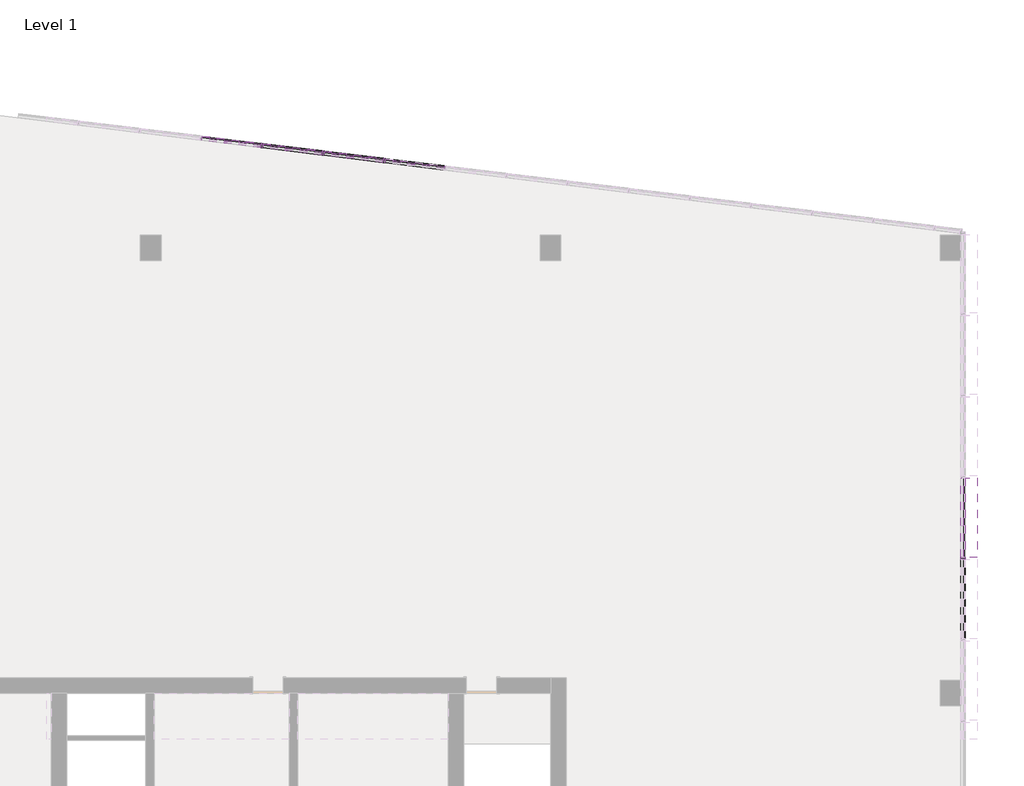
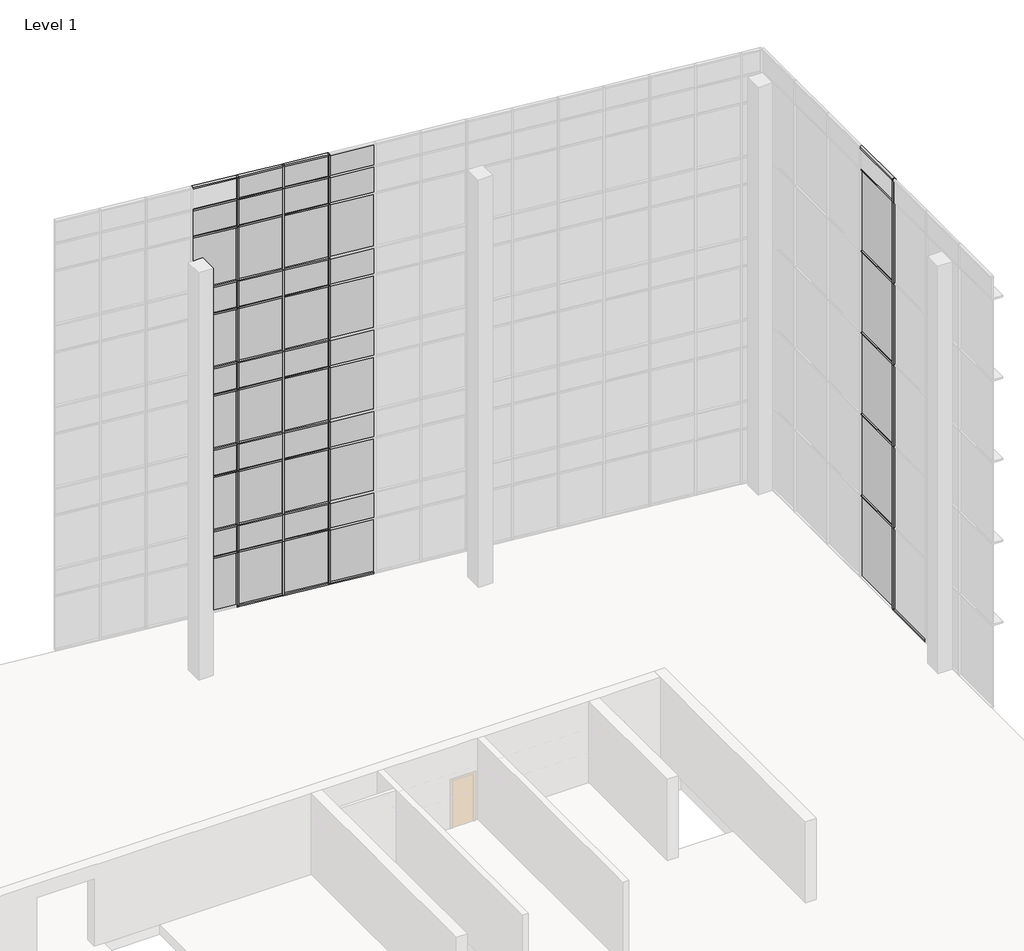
# One storey, part 19 of 23: 70 members, 48 plates.
"""IFC4 building model written with IfcOpenShell, lengths in millimetres."""

from ifc_helpers import new_model, si_unit, origin, place, context, project, spatial, transform, mapped, element, save
from components import member_4178592a, member_a26b4311, member_2b49869a, member_f92b8aa2, member_810865a4, member_f0fea5a5, member_6d5c3e5e, member_90793d7c, member_64b167af, member_9764dd38, system_panel_glazed_14c75400, system_panel_glazed_bb983545, system_panel_solid_5dfe6f83, system_panel_solid_e25e2004, system_panel_solid_b7551183

model = new_model("IFC4")

# Units and contexts
model_context = context("Model", 3, world=origin())
ifc_project = project(units=[si_unit("LENGTHUNIT", "METRE", prefix="MILLI")], contexts=[model_context])

# Site, building, storey
site = spatial("IfcSite", under=ifc_project)
building = spatial("IfcBuilding", under=site)
storey = spatial("IfcBuildingStorey", under=building, Name="Level 1", Elevation=0.0)

# Members
placement = place(None, origin())
member_shape = member_4178592a(model_context)
element("IfcMember", 1, ObjectType="Quad Corner Mullion : 5\" x 5\" Quad Corner", at=placement, inside=storey, context=model_context, shape_type="MappedRepresentation", body=[
    mapped(member_shape, transform((15106.8054088, 334.8243564, 19304.0), x_axis=(0.0, 0.0, 1.0), y_axis=(-1.0, 0.0, 0.0), z_axis=(0.0, -1.0, 0.0))),
])
element("IfcMember", 2, ObjectType="Quad Corner Mullion : 5\" x 5\" Quad Corner", at=placement, inside=storey, context=model_context, shape_type="MappedRepresentation", body=[
    mapped(member_shape, transform((15106.8054088, 271.3243564, 0.0), x_axis=(0.0, 0.0, -1.0), y_axis=(-1.0, 0.0, 0.0), z_axis=(0.0, 1.0, 0.0))),
])
member_2_shape = member_a26b4311(model_context)
element("IfcMember", 3, ObjectType="Rectangular Mullion : 2.5\" x 18\" rectangular", at=placement, inside=storey, context=model_context, shape_type="MappedRepresentation", body=[
    mapped(member_2_shape, transform((15106.8054088, 334.8243564, 3666.6228811), x_axis=(0.0, 0.0, 1.0), y_axis=(-1.0, 0.0, 0.0), z_axis=(0.0, -1.0, 0.0))),
])
element("IfcMember", 4, ObjectType="Rectangular Mullion : 2.5\" x 18\" rectangular", at=placement, inside=storey, context=model_context, shape_type="MappedRepresentation", body=[
    mapped(member_2_shape, transform((15106.8054088, 334.8243564, 7324.2228811), x_axis=(0.0, 0.0, 1.0), y_axis=(-1.0, 0.0, 0.0), z_axis=(0.0, -1.0, 0.0))),
])
element("IfcMember", 5, ObjectType="Rectangular Mullion : 2.5\" x 18\" rectangular", at=placement, inside=storey, context=model_context, shape_type="MappedRepresentation", body=[
    mapped(member_2_shape, transform((15106.8054088, 334.8243564, 10981.8228811), x_axis=(0.0, 0.0, 1.0), y_axis=(-1.0, 0.0, 0.0), z_axis=(0.0, -1.0, 0.0))),
])
element("IfcMember", 6, ObjectType="Rectangular Mullion : 2.5\" x 18\" rectangular", at=placement, inside=storey, context=model_context, shape_type="MappedRepresentation", body=[
    mapped(member_2_shape, transform((15106.8054088, 334.8243564, 14639.4228811), x_axis=(0.0, 0.0, 1.0), y_axis=(-1.0, 0.0, 0.0), z_axis=(0.0, -1.0, 0.0))),
])
element("IfcMember", 7, ObjectType="Rectangular Mullion : 2.5\" x 18\" rectangular", at=placement, inside=storey, context=model_context, shape_type="MappedRepresentation", body=[
    mapped(member_2_shape, transform((15106.8054088, 334.8243564, 18297.0228811), x_axis=(0.0, 0.0, 1.0), y_axis=(-1.0, 0.0, 0.0), z_axis=(0.0, -1.0, 0.0))),
])
member_3_shape = member_2b49869a(model_context)
element("IfcMember", 8, ObjectType="Rectangular Mullion : 2.5\" x 5\" rectangular", at=placement, inside=storey, context=model_context, shape_type="MappedRepresentation", body=[
    mapped(member_3_shape, transform((-5700.4995571, 12571.2945117, 2438.4), x_axis=(0.9925461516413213, -0.12186934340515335, 0.0), y_axis=(-0.12186934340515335, -0.9925461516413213, 0.0), z_axis=(0.0, 0.0, -1.0))),
])
element("IfcMember", 9, ObjectType="Rectangular Mullion : 2.5\" x 5\" rectangular", at=placement, inside=storey, context=model_context, shape_type="MappedRepresentation", body=[
    mapped(member_3_shape, transform((-2070.1627529, 12125.5452013, 2438.4), x_axis=(0.9925461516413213, -0.12186934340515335, 0.0), y_axis=(-0.12186934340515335, -0.9925461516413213, 0.0), z_axis=(0.0, 0.0, -1.0))),
])
element("IfcMember", 10, ObjectType="Rectangular Mullion : 2.5\" x 5\" rectangular", at=placement, inside=storey, context=model_context, shape_type="MappedRepresentation", body=[
    mapped(member_3_shape, transform((-3885.331155, 12348.4198565, 2438.4), x_axis=(0.9925461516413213, -0.12186934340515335, 0.0), y_axis=(-0.12186934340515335, -0.9925461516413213, 0.0), z_axis=(0.0, 0.0, -1.0))),
])
member_4_shape = member_f92b8aa2(model_context)
element("IfcMember", 11, ObjectType="Rectangular Mullion : 2.5\" x 5\" rectangular", at=placement, inside=storey, context=model_context, shape_type="MappedRepresentation", body=[
    mapped(member_4_shape, transform((-5700.4995571, 12571.2945117, 18288.0), x_axis=(0.9925461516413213, -0.12186934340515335, 0.0), y_axis=(-0.12186934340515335, -0.9925461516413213, 0.0), z_axis=(0.0, 0.0, -1.0))),
])
element("IfcMember", 12, ObjectType="Rectangular Mullion : 2.5\" x 5\" rectangular", at=placement, inside=storey, context=model_context, shape_type="MappedRepresentation", body=[
    mapped(member_4_shape, transform((-2070.1627529, 12125.5452013, 18288.0), x_axis=(0.9925461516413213, -0.12186934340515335, 0.0), y_axis=(-0.12186934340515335, -0.9925461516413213, 0.0), z_axis=(0.0, 0.0, -1.0))),
])
element("IfcMember", 13, ObjectType="Rectangular Mullion : 2.5\" x 5\" rectangular", at=placement, inside=storey, context=model_context, shape_type="MappedRepresentation", body=[
    mapped(member_4_shape, transform((-3885.331155, 12348.4198565, 18288.0), x_axis=(0.9925461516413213, -0.12186934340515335, 0.0), y_axis=(-0.12186934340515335, -0.9925461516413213, 0.0), z_axis=(0.0, 0.0, -1.0))),
])
member_5_shape = member_810865a4(model_context)
element("IfcMember", 14, ObjectType="Rectangular Mullion : 2.5\" x 5\" rectangular", at=placement, inside=storey, context=model_context, shape_type="MappedRepresentation", body=[
    mapped(member_5_shape, transform((-3885.331155, 12348.4198565, 7315.2), x_axis=(0.9925461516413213, -0.12186934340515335, 0.0), y_axis=(-0.12186934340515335, -0.9925461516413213, 0.0), z_axis=(0.0, 0.0, -1.0))),
])
element("IfcMember", 15, ObjectType="Rectangular Mullion : 2.5\" x 5\" rectangular", at=placement, inside=storey, context=model_context, shape_type="MappedRepresentation", body=[
    mapped(member_5_shape, transform((-3885.331155, 12348.4198565, 3657.6), x_axis=(0.9925461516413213, -0.12186934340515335, 0.0), y_axis=(-0.12186934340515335, -0.9925461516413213, 0.0), z_axis=(0.0, 0.0, -1.0))),
])
element("IfcMember", 16, ObjectType="Rectangular Mullion : 2.5\" x 5\" rectangular", at=placement, inside=storey, context=model_context, shape_type="MappedRepresentation", body=[
    mapped(member_5_shape, transform((-5700.4995571, 12571.2945117, 14630.4), x_axis=(0.9925461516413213, -0.12186934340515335, 0.0), y_axis=(-0.12186934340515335, -0.9925461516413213, 0.0), z_axis=(0.0, 0.0, -1.0))),
])
element("IfcMember", 17, ObjectType="Rectangular Mullion : 2.5\" x 5\" rectangular", at=placement, inside=storey, context=model_context, shape_type="MappedRepresentation", body=[
    mapped(member_5_shape, transform((-5700.4995571, 12571.2945117, 10972.8), x_axis=(0.9925461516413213, -0.12186934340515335, 0.0), y_axis=(-0.12186934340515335, -0.9925461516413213, 0.0), z_axis=(0.0, 0.0, -1.0))),
])
element("IfcMember", 18, ObjectType="Rectangular Mullion : 2.5\" x 5\" rectangular", at=placement, inside=storey, context=model_context, shape_type="MappedRepresentation", body=[
    mapped(member_5_shape, transform((-5700.4995571, 12571.2945117, 7315.2), x_axis=(0.9925461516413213, -0.12186934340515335, 0.0), y_axis=(-0.12186934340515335, -0.9925461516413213, 0.0), z_axis=(0.0, 0.0, -1.0))),
])
element("IfcMember", 19, ObjectType="Rectangular Mullion : 2.5\" x 5\" rectangular", at=placement, inside=storey, context=model_context, shape_type="MappedRepresentation", body=[
    mapped(member_5_shape, transform((-5700.4995571, 12571.2945117, 3657.6), x_axis=(0.9925461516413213, -0.12186934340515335, 0.0), y_axis=(-0.12186934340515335, -0.9925461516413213, 0.0), z_axis=(0.0, 0.0, -1.0))),
])
element("IfcMember", 20, ObjectType="Rectangular Mullion : 2.5\" x 5\" rectangular", at=placement, inside=storey, context=model_context, shape_type="MappedRepresentation", body=[
    mapped(member_5_shape, transform((-2070.1627529, 12125.5452013, 14630.4), x_axis=(0.9925461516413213, -0.12186934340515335, 0.0), y_axis=(-0.12186934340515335, -0.9925461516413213, 0.0), z_axis=(0.0, 0.0, -1.0))),
])
element("IfcMember", 21, ObjectType="Rectangular Mullion : 2.5\" x 5\" rectangular", at=placement, inside=storey, context=model_context, shape_type="MappedRepresentation", body=[
    mapped(member_5_shape, transform((-2070.1627529, 12125.5452013, 10972.8), x_axis=(0.9925461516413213, -0.12186934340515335, 0.0), y_axis=(-0.12186934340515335, -0.9925461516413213, 0.0), z_axis=(0.0, 0.0, -1.0))),
])
element("IfcMember", 22, ObjectType="Rectangular Mullion : 2.5\" x 5\" rectangular", at=placement, inside=storey, context=model_context, shape_type="MappedRepresentation", body=[
    mapped(member_5_shape, transform((-2070.1627529, 12125.5452013, 7315.2), x_axis=(0.9925461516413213, -0.12186934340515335, 0.0), y_axis=(-0.12186934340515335, -0.9925461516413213, 0.0), z_axis=(0.0, 0.0, -1.0))),
])
element("IfcMember", 23, ObjectType="Rectangular Mullion : 2.5\" x 5\" rectangular", at=placement, inside=storey, context=model_context, shape_type="MappedRepresentation", body=[
    mapped(member_5_shape, transform((-2070.1627529, 12125.5452013, 3657.6), x_axis=(0.9925461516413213, -0.12186934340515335, 0.0), y_axis=(-0.12186934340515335, -0.9925461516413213, 0.0), z_axis=(0.0, 0.0, -1.0))),
])
element("IfcMember", 24, ObjectType="Rectangular Mullion : 2.5\" x 5\" rectangular", at=placement, inside=storey, context=model_context, shape_type="MappedRepresentation", body=[
    mapped(member_5_shape, transform((-3885.331155, 12348.4198565, 14630.4), x_axis=(0.9925461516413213, -0.12186934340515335, 0.0), y_axis=(-0.12186934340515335, -0.9925461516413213, 0.0), z_axis=(0.0, 0.0, -1.0))),
])
element("IfcMember", 25, ObjectType="Rectangular Mullion : 2.5\" x 5\" rectangular", at=placement, inside=storey, context=model_context, shape_type="MappedRepresentation", body=[
    mapped(member_5_shape, transform((-3885.331155, 12348.4198565, 10972.8), x_axis=(0.9925461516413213, -0.12186934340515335, 0.0), y_axis=(-0.12186934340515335, -0.9925461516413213, 0.0), z_axis=(0.0, 0.0, -1.0))),
])
element("IfcMember", 26, ObjectType="Rectangular Mullion : 2.5\" x 5\" rectangular", at=placement, inside=storey, context=model_context, shape_type="MappedRepresentation", body=[
    mapped(member_5_shape, transform((15106.8054088, 303.0743564, 3666.6228811), x_axis=(0.0, -1.0, 0.0), y_axis=(-1.0, 0.0, 0.0), z_axis=(0.0, 0.0, -1.0))),
])
element("IfcMember", 27, ObjectType="Rectangular Mullion : 2.5\" x 5\" rectangular", at=placement, inside=storey, context=model_context, shape_type="MappedRepresentation", body=[
    mapped(member_5_shape, transform((15106.8054088, 303.0743564, 7324.2228811), x_axis=(0.0, -1.0, 0.0), y_axis=(-1.0, 0.0, 0.0), z_axis=(0.0, 0.0, -1.0))),
])
element("IfcMember", 28, ObjectType="Rectangular Mullion : 2.5\" x 5\" rectangular", at=placement, inside=storey, context=model_context, shape_type="MappedRepresentation", body=[
    mapped(member_5_shape, transform((15106.8054088, 303.0743564, 10981.8228811), x_axis=(0.0, -1.0, 0.0), y_axis=(-1.0, 0.0, 0.0), z_axis=(0.0, 0.0, -1.0))),
])
element("IfcMember", 29, ObjectType="Rectangular Mullion : 2.5\" x 5\" rectangular", at=placement, inside=storey, context=model_context, shape_type="MappedRepresentation", body=[
    mapped(member_5_shape, transform((15106.8054088, 303.0743564, 14639.4228811), x_axis=(0.0, -1.0, 0.0), y_axis=(-1.0, 0.0, 0.0), z_axis=(0.0, 0.0, -1.0))),
])
member_6_shape = member_f0fea5a5(model_context)
element("IfcMember", 30, ObjectType="Rectangular Mullion : 2.5\" x 5\" rectangular", at=placement, inside=storey, context=model_context, shape_type="MappedRepresentation", body=[
    mapped(member_6_shape, transform((-3885.331155, 12348.4198565, 0.0), x_axis=(0.9925461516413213, -0.12186934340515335, 0.0), y_axis=(-0.12186934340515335, -0.9925461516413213, 0.0), z_axis=(0.0, 0.0, -1.0))),
])
element("IfcMember", 31, ObjectType="Rectangular Mullion : 2.5\" x 5\" rectangular", at=placement, inside=storey, context=model_context, shape_type="MappedRepresentation", body=[
    mapped(member_6_shape, transform((-5700.4995571, 12571.2945117, 0.0), x_axis=(0.9925461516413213, -0.12186934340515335, 0.0), y_axis=(-0.12186934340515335, -0.9925461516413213, 0.0), z_axis=(0.0, 0.0, -1.0))),
])
element("IfcMember", 32, ObjectType="Rectangular Mullion : 2.5\" x 5\" rectangular", at=placement, inside=storey, context=model_context, shape_type="MappedRepresentation", body=[
    mapped(member_6_shape, transform((-2070.1627529, 12125.5452013, 0.0), x_axis=(0.9925461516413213, -0.12186934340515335, 0.0), y_axis=(-0.12186934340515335, -0.9925461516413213, 0.0), z_axis=(0.0, 0.0, -1.0))),
])
member_7_shape = member_6d5c3e5e(model_context)
element("IfcMember", 33, ObjectType="Rectangular Mullion : 2.5\" x 5\" rectangular", at=placement, inside=storey, context=model_context, shape_type="MappedRepresentation", body=[
    mapped(member_7_shape, transform((-2101.6760932, 12129.414553, 19304.0), x_axis=(0.0, 0.0, 1.0), y_axis=(-0.12186934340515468, -0.9925461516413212, 0.0), z_axis=(0.9925461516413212, -0.12186934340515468, 0.0))),
])
element("IfcMember", 34, ObjectType="Rectangular Mullion : 2.5\" x 5\" rectangular", at=placement, inside=storey, context=model_context, shape_type="MappedRepresentation", body=[
    mapped(member_7_shape, transform((-3916.8444953, 12352.2892082, 19304.0), x_axis=(0.0, 0.0, 1.0), y_axis=(-0.12186934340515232, -0.9925461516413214, 0.0), z_axis=(0.9925461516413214, -0.12186934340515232, 0.0))),
])
element("IfcMember", 35, ObjectType="Rectangular Mullion : 2.5\" x 5\" rectangular", at=placement, inside=storey, context=model_context, shape_type="MappedRepresentation", body=[
    mapped(member_7_shape, transform((-5732.0128974, 12575.1638634, 19304.0), x_axis=(0.0, 0.0, 1.0), y_axis=(-0.12186934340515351, -0.9925461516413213, 0.0), z_axis=(0.9925461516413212, -0.1218693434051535, 0.0))),
])
member_8_shape = member_90793d7c(model_context)
element("IfcMember", 36, ObjectType="Rectangular Mullion : 2.5\" x 5\" rectangular", at=placement, inside=storey, context=model_context, shape_type="MappedRepresentation", body=[
    mapped(member_8_shape, transform((15106.8054088, 303.0743564, 0.0), x_axis=(0.0, -1.0, 0.0), y_axis=(-1.0, 0.0, 0.0), z_axis=(0.0, 0.0, -1.0))),
])
member_9_shape = member_64b167af(model_context)
element("IfcMember", 37, ObjectType="Rectangular Mullion : 2.5\" x 5\" rectangular", at=placement, inside=storey, context=model_context, shape_type="MappedRepresentation", body=[
    mapped(member_9_shape, transform((15106.8054088, 303.0743564, 18297.0228811), x_axis=(0.0, -1.0, 0.0), y_axis=(-1.0, 0.0, 0.0), z_axis=(0.0, 0.0, -1.0))),
])
member_10_shape = member_9764dd38(model_context)
element("IfcMember", 38, ObjectType="Rectangular Mullion : 2.5\" x 5\" rectangular", at=placement, inside=storey, context=model_context, shape_type="MappedRepresentation", body=[
    mapped(member_10_shape, transform((-2101.6760932, 12129.414553, 17068.8), x_axis=(0.0, 0.0, 1.0), y_axis=(-0.12186934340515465, -0.9925461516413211, 0.0), z_axis=(0.9925461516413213, -0.12186934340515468, 0.0))),
])
element("IfcMember", 39, ObjectType="Rectangular Mullion : 2.5\" x 5\" rectangular", at=placement, inside=storey, context=model_context, shape_type="MappedRepresentation", body=[
    mapped(member_10_shape, transform((-3916.8444953, 12352.2892082, 17068.8), x_axis=(0.0, 0.0, 1.0), y_axis=(-0.1218693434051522, -0.9925461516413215, 0.0), z_axis=(0.9925461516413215, -0.1218693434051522, 0.0))),
])
element("IfcMember", 40, ObjectType="Rectangular Mullion : 2.5\" x 5\" rectangular", at=placement, inside=storey, context=model_context, shape_type="MappedRepresentation", body=[
    mapped(member_10_shape, transform((-5732.0128974, 12575.1638634, 17068.8), x_axis=(0.0, 0.0, 1.0), y_axis=(-0.12186934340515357, -0.9925461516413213, 0.0), z_axis=(0.9925461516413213, -0.12186934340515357, 0.0))),
])
element("IfcMember", 41, ObjectType="Rectangular Mullion : 2.5\" x 5\" rectangular", at=placement, inside=storey, context=model_context, shape_type="MappedRepresentation", body=[
    mapped(member_10_shape, transform((-2101.6760932, 12129.414553, 13411.2), x_axis=(0.0, 0.0, 1.0), y_axis=(-0.12186934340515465, -0.9925461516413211, 0.0), z_axis=(0.9925461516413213, -0.12186934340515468, 0.0))),
])
element("IfcMember", 42, ObjectType="Rectangular Mullion : 2.5\" x 5\" rectangular", at=placement, inside=storey, context=model_context, shape_type="MappedRepresentation", body=[
    mapped(member_10_shape, transform((-3916.8444953, 12352.2892082, 13411.2), x_axis=(0.0, 0.0, 1.0), y_axis=(-0.1218693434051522, -0.9925461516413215, 0.0), z_axis=(0.9925461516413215, -0.1218693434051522, 0.0))),
])
element("IfcMember", 43, ObjectType="Rectangular Mullion : 2.5\" x 5\" rectangular", at=placement, inside=storey, context=model_context, shape_type="MappedRepresentation", body=[
    mapped(member_10_shape, transform((-5732.0128974, 12575.1638634, 13411.2), x_axis=(0.0, 0.0, 1.0), y_axis=(-0.12186934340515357, -0.9925461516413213, 0.0), z_axis=(0.9925461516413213, -0.12186934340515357, 0.0))),
])
element("IfcMember", 44, ObjectType="Rectangular Mullion : 2.5\" x 5\" rectangular", at=placement, inside=storey, context=model_context, shape_type="MappedRepresentation", body=[
    mapped(member_10_shape, transform((-2101.6760932, 12129.414553, 9753.6), x_axis=(0.0, 0.0, 1.0), y_axis=(-0.12186934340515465, -0.9925461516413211, 0.0), z_axis=(0.9925461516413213, -0.12186934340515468, 0.0))),
])
element("IfcMember", 45, ObjectType="Rectangular Mullion : 2.5\" x 5\" rectangular", at=placement, inside=storey, context=model_context, shape_type="MappedRepresentation", body=[
    mapped(member_10_shape, transform((-3916.8444953, 12352.2892082, 9753.6), x_axis=(0.0, 0.0, 1.0), y_axis=(-0.12186934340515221, -0.9925461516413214, 0.0), z_axis=(0.9925461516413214, -0.12186934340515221, 0.0))),
])
element("IfcMember", 46, ObjectType="Rectangular Mullion : 2.5\" x 5\" rectangular", at=placement, inside=storey, context=model_context, shape_type="MappedRepresentation", body=[
    mapped(member_10_shape, transform((-5732.0128974, 12575.1638634, 9753.6), x_axis=(0.0, 0.0, 1.0), y_axis=(-0.12186934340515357, -0.9925461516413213, 0.0), z_axis=(0.9925461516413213, -0.12186934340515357, 0.0))),
])
element("IfcMember", 47, ObjectType="Rectangular Mullion : 2.5\" x 5\" rectangular", at=placement, inside=storey, context=model_context, shape_type="MappedRepresentation", body=[
    mapped(member_10_shape, transform((-2101.6760932, 12129.414553, 6096.0), x_axis=(0.0, 0.0, 1.0), y_axis=(-0.12186934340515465, -0.9925461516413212, 0.0), z_axis=(0.9925461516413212, -0.12186934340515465, 0.0))),
])
element("IfcMember", 48, ObjectType="Rectangular Mullion : 2.5\" x 5\" rectangular", at=placement, inside=storey, context=model_context, shape_type="MappedRepresentation", body=[
    mapped(member_10_shape, transform((-3916.8444953, 12352.2892082, 6096.0), x_axis=(0.0, 0.0, 1.0), y_axis=(-0.12186934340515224, -0.9925461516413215, 0.0), z_axis=(0.9925461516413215, -0.12186934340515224, 0.0))),
])
element("IfcMember", 49, ObjectType="Rectangular Mullion : 2.5\" x 5\" rectangular", at=placement, inside=storey, context=model_context, shape_type="MappedRepresentation", body=[
    mapped(member_10_shape, transform((-5732.0128974, 12575.1638634, 6096.0), x_axis=(0.0, 0.0, 1.0), y_axis=(-0.12186934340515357, -0.9925461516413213, 0.0), z_axis=(0.9925461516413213, -0.12186934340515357, 0.0))),
])
element("IfcMember", 50, ObjectType="Rectangular Mullion : 2.5\" x 5\" rectangular", at=placement, inside=storey, context=model_context, shape_type="MappedRepresentation", body=[
    mapped(member_10_shape, transform((-2101.6760932, 12129.414553, 2470.15), x_axis=(0.0, 0.0, 1.0), y_axis=(-0.12186934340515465, -0.9925461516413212, 0.0), z_axis=(0.9925461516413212, -0.12186934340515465, 0.0))),
])
element("IfcMember", 51, ObjectType="Rectangular Mullion : 2.5\" x 5\" rectangular", at=placement, inside=storey, context=model_context, shape_type="MappedRepresentation", body=[
    mapped(member_10_shape, transform((-3916.8444953, 12352.2892082, 2470.15), x_axis=(0.0, 0.0, 1.0), y_axis=(-0.12186934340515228, -0.9925461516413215, 0.0), z_axis=(0.9925461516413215, -0.12186934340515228, 0.0))),
])
element("IfcMember", 52, ObjectType="Rectangular Mullion : 2.5\" x 5\" rectangular", at=placement, inside=storey, context=model_context, shape_type="MappedRepresentation", body=[
    mapped(member_10_shape, transform((-5732.0128974, 12575.1638634, 2470.15), x_axis=(0.0, 0.0, 1.0), y_axis=(-0.12186934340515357, -0.9925461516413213, 0.0), z_axis=(0.9925461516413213, -0.12186934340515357, 0.0))),
])
element("IfcMember", 53, ObjectType="Rectangular Mullion : 2.5\" x 5\" rectangular", at=placement, inside=storey, context=model_context, shape_type="MappedRepresentation", body=[
    mapped(member_7_shape, transform((-2038.6494126, 12121.6758497, 0.0), x_axis=(0.0, 0.0, -1.0), y_axis=(-0.12186934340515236, -0.9925461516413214, 0.0), z_axis=(-0.9925461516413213, 0.12186934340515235, 0.0))),
])
element("IfcMember", 54, ObjectType="Rectangular Mullion : 2.5\" x 5\" rectangular", at=placement, inside=storey, context=model_context, shape_type="MappedRepresentation", body=[
    mapped(member_7_shape, transform((-3853.8178147, 12344.5505049, 0.0), x_axis=(0.0, 0.0, -1.0), y_axis=(-0.12186934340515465, -0.9925461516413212, 0.0), z_axis=(-0.9925461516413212, 0.12186934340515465, 0.0))),
])
element("IfcMember", 55, ObjectType="Rectangular Mullion : 2.5\" x 5\" rectangular", at=placement, inside=storey, context=model_context, shape_type="MappedRepresentation", body=[
    mapped(member_7_shape, transform((-5668.9862168, 12567.4251601, 0.0), x_axis=(0.0, 0.0, -1.0), y_axis=(-0.12186934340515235, -0.9925461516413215, 0.0), z_axis=(-0.9925461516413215, 0.12186934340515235, 0.0))),
])
element("IfcMember", 56, ObjectType="Rectangular Mullion : 2.5\" x 5\" rectangular", at=placement, inside=storey, context=model_context, shape_type="MappedRepresentation", body=[
    mapped(member_10_shape, transform((-2101.6760932, 12129.414553, 3657.6), x_axis=(0.0, 0.0, 1.0), y_axis=(-0.12186934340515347, -0.9925461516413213, 0.0), z_axis=(0.9925461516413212, -0.12186934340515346, 0.0))),
])
element("IfcMember", 57, ObjectType="Rectangular Mullion : 2.5\" x 5\" rectangular", at=placement, inside=storey, context=model_context, shape_type="MappedRepresentation", body=[
    mapped(member_10_shape, transform((-3916.8444953, 12352.2892082, 3657.6), x_axis=(0.0, 0.0, 1.0), y_axis=(-0.12186934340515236, -0.9925461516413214, 0.0), z_axis=(0.9925461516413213, -0.12186934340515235, 0.0))),
])
element("IfcMember", 58, ObjectType="Rectangular Mullion : 2.5\" x 5\" rectangular", at=placement, inside=storey, context=model_context, shape_type="MappedRepresentation", body=[
    mapped(member_10_shape, transform((-5732.0128974, 12575.1638634, 3657.6), x_axis=(0.0, 0.0, 1.0), y_axis=(-0.12186934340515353, -0.9925461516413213, 0.0), z_axis=(0.9925461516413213, -0.12186934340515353, 0.0))),
])
element("IfcMember", 59, ObjectType="Rectangular Mullion : 2.5\" x 5\" rectangular", at=placement, inside=storey, context=model_context, shape_type="MappedRepresentation", body=[
    mapped(member_10_shape, transform((-2101.6760932, 12129.414553, 10972.8), x_axis=(0.0, 0.0, 1.0), y_axis=(-0.12186934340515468, -0.9925461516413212, 0.0), z_axis=(0.9925461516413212, -0.12186934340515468, 0.0))),
])
element("IfcMember", 60, ObjectType="Rectangular Mullion : 2.5\" x 5\" rectangular", at=placement, inside=storey, context=model_context, shape_type="MappedRepresentation", body=[
    mapped(member_10_shape, transform((-3916.8444953, 12352.2892082, 10972.8), x_axis=(0.0, 0.0, 1.0), y_axis=(-0.12186934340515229, -0.9925461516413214, 0.0), z_axis=(0.9925461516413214, -0.12186934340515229, 0.0))),
])
element("IfcMember", 61, ObjectType="Rectangular Mullion : 2.5\" x 5\" rectangular", at=placement, inside=storey, context=model_context, shape_type="MappedRepresentation", body=[
    mapped(member_10_shape, transform((-5732.0128974, 12575.1638634, 10972.8), x_axis=(0.0, 0.0, 1.0), y_axis=(-0.12186934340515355, -0.9925461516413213, 0.0), z_axis=(0.9925461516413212, -0.12186934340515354, 0.0))),
])
element("IfcMember", 62, ObjectType="Rectangular Mullion : 2.5\" x 5\" rectangular", at=placement, inside=storey, context=model_context, shape_type="MappedRepresentation", body=[
    mapped(member_10_shape, transform((-2101.6760932, 12129.414553, 14630.4), x_axis=(0.0, 0.0, 1.0), y_axis=(-0.12186934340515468, -0.9925461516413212, 0.0), z_axis=(0.9925461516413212, -0.12186934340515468, 0.0))),
])
element("IfcMember", 63, ObjectType="Rectangular Mullion : 2.5\" x 5\" rectangular", at=placement, inside=storey, context=model_context, shape_type="MappedRepresentation", body=[
    mapped(member_10_shape, transform((-3916.8444953, 12352.2892082, 14630.4), x_axis=(0.0, 0.0, 1.0), y_axis=(-0.12186934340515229, -0.9925461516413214, 0.0), z_axis=(0.9925461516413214, -0.12186934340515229, 0.0))),
])
element("IfcMember", 64, ObjectType="Rectangular Mullion : 2.5\" x 5\" rectangular", at=placement, inside=storey, context=model_context, shape_type="MappedRepresentation", body=[
    mapped(member_10_shape, transform((-5732.0128974, 12575.1638634, 14630.4), x_axis=(0.0, 0.0, 1.0), y_axis=(-0.12186934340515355, -0.9925461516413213, 0.0), z_axis=(0.9925461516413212, -0.12186934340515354, 0.0))),
])
element("IfcMember", 65, ObjectType="Rectangular Mullion : 2.5\" x 5\" rectangular", at=placement, inside=storey, context=model_context, shape_type="MappedRepresentation", body=[
    mapped(member_10_shape, transform((-2101.6760932, 12129.414553, 7315.2), x_axis=(0.0, 0.0, 1.0), y_axis=(-0.12186934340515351, -0.9925461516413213, 0.0), z_axis=(0.9925461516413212, -0.1218693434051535, 0.0))),
])
element("IfcMember", 66, ObjectType="Rectangular Mullion : 2.5\" x 5\" rectangular", at=placement, inside=storey, context=model_context, shape_type="MappedRepresentation", body=[
    mapped(member_10_shape, transform((-3916.8444953, 12352.2892082, 7315.2), x_axis=(0.0, 0.0, 1.0), y_axis=(-0.12186934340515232, -0.9925461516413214, 0.0), z_axis=(0.9925461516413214, -0.12186934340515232, 0.0))),
])
element("IfcMember", 67, ObjectType="Rectangular Mullion : 2.5\" x 5\" rectangular", at=placement, inside=storey, context=model_context, shape_type="MappedRepresentation", body=[
    mapped(member_10_shape, transform((-5732.0128974, 12575.1638634, 7315.2), x_axis=(0.0, 0.0, 1.0), y_axis=(-0.12186934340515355, -0.9925461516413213, 0.0), z_axis=(0.9925461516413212, -0.12186934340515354, 0.0))),
])
element("IfcMember", 68, ObjectType="Rectangular Mullion : 2.5\" x 5\" rectangular", at=placement, inside=storey, context=model_context, shape_type="MappedRepresentation", body=[
    mapped(member_10_shape, transform((-2101.6760932, 12129.414553, 18288.0), x_axis=(0.0, 0.0, 1.0), y_axis=(-0.12186934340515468, -0.9925461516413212, 0.0), z_axis=(0.9925461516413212, -0.12186934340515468, 0.0))),
])
element("IfcMember", 69, ObjectType="Rectangular Mullion : 2.5\" x 5\" rectangular", at=placement, inside=storey, context=model_context, shape_type="MappedRepresentation", body=[
    mapped(member_10_shape, transform((-3916.8444953, 12352.2892082, 18288.0), x_axis=(0.0, 0.0, 1.0), y_axis=(-0.12186934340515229, -0.9925461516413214, 0.0), z_axis=(0.9925461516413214, -0.12186934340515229, 0.0))),
])
element("IfcMember", 70, ObjectType="Rectangular Mullion : 2.5\" x 5\" rectangular", at=placement, inside=storey, context=model_context, shape_type="MappedRepresentation", body=[
    mapped(member_10_shape, transform((-5732.0128974, 12575.1638634, 18288.0), x_axis=(0.0, 0.0, 1.0), y_axis=(-0.12186934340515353, -0.9925461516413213, 0.0), z_axis=(0.9925461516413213, -0.12186934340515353, 0.0))),
])

# Plates
system_panel_glazed_shape = system_panel_glazed_14c75400(model_context)
element("IfcPlate", 71, ObjectType="System Panel : Glazed", at=placement, inside=storey, context=model_context, shape_type="MappedRepresentation", body=[
    mapped(system_panel_glazed_shape, transform((-1162.5785518, 12014.1078737, 14662.15), x_axis=(0.9925461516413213, -0.12186934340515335, 0.0), y_axis=(0.12186934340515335, 0.9925461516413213, 0.0), z_axis=(0.0, 0.0, 1.0))),
])
element("IfcPlate", 72, ObjectType="System Panel : Glazed", at=placement, inside=storey, context=model_context, shape_type="MappedRepresentation", body=[
    mapped(system_panel_glazed_shape, transform((-2977.7469539, 12236.9825289, 14662.15), x_axis=(0.9925461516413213, -0.12186934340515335, 0.0), y_axis=(0.12186934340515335, 0.9925461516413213, 0.0), z_axis=(0.0, 0.0, 1.0))),
])
element("IfcPlate", 73, ObjectType="System Panel : Glazed", at=placement, inside=storey, context=model_context, shape_type="MappedRepresentation", body=[
    mapped(system_panel_glazed_shape, transform((-4792.9153561, 12459.8571841, 14662.15), x_axis=(0.9925461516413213, -0.12186934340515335, 0.0), y_axis=(0.12186934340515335, 0.9925461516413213, 0.0), z_axis=(0.0, 0.0, 1.0))),
])
element("IfcPlate", 74, ObjectType="System Panel : Glazed", at=placement, inside=storey, context=model_context, shape_type="MappedRepresentation", body=[
    mapped(system_panel_glazed_shape, transform((-6608.0837582, 12682.7318394, 14662.15), x_axis=(0.9925461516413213, -0.12186934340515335, 0.0), y_axis=(0.12186934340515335, 0.9925461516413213, 0.0), z_axis=(0.0, 0.0, 1.0))),
])
element("IfcPlate", 75, ObjectType="System Panel : Glazed", at=placement, inside=storey, context=model_context, shape_type="MappedRepresentation", body=[
    mapped(system_panel_glazed_shape, transform((-1162.5785518, 12014.1078737, 11004.55), x_axis=(0.9925461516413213, -0.12186934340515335, 0.0), y_axis=(0.12186934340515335, 0.9925461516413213, 0.0), z_axis=(0.0, 0.0, 1.0))),
])
element("IfcPlate", 76, ObjectType="System Panel : Glazed", at=placement, inside=storey, context=model_context, shape_type="MappedRepresentation", body=[
    mapped(system_panel_glazed_shape, transform((-2977.7469539, 12236.9825289, 11004.55), x_axis=(0.9925461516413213, -0.12186934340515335, 0.0), y_axis=(0.12186934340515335, 0.9925461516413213, 0.0), z_axis=(0.0, 0.0, 1.0))),
])
element("IfcPlate", 77, ObjectType="System Panel : Glazed", at=placement, inside=storey, context=model_context, shape_type="MappedRepresentation", body=[
    mapped(system_panel_glazed_shape, transform((-4792.9153561, 12459.8571841, 11004.55), x_axis=(0.9925461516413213, -0.12186934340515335, 0.0), y_axis=(0.12186934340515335, 0.9925461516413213, 0.0), z_axis=(0.0, 0.0, 1.0))),
])
element("IfcPlate", 78, ObjectType="System Panel : Glazed", at=placement, inside=storey, context=model_context, shape_type="MappedRepresentation", body=[
    mapped(system_panel_glazed_shape, transform((-6608.0837582, 12682.7318394, 11004.55), x_axis=(0.9925461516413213, -0.12186934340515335, 0.0), y_axis=(0.12186934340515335, 0.9925461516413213, 0.0), z_axis=(0.0, 0.0, 1.0))),
])
element("IfcPlate", 79, ObjectType="System Panel : Glazed", at=placement, inside=storey, context=model_context, shape_type="MappedRepresentation", body=[
    mapped(system_panel_glazed_shape, transform((-1162.5785518, 12014.1078737, 7346.95), x_axis=(0.9925461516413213, -0.12186934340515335, 0.0), y_axis=(0.12186934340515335, 0.9925461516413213, 0.0), z_axis=(0.0, 0.0, 1.0))),
])
element("IfcPlate", 80, ObjectType="System Panel : Glazed", at=placement, inside=storey, context=model_context, shape_type="MappedRepresentation", body=[
    mapped(system_panel_glazed_shape, transform((-2977.7469539, 12236.9825289, 7346.95), x_axis=(0.9925461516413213, -0.12186934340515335, 0.0), y_axis=(0.12186934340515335, 0.9925461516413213, 0.0), z_axis=(0.0, 0.0, 1.0))),
])
element("IfcPlate", 81, ObjectType="System Panel : Glazed", at=placement, inside=storey, context=model_context, shape_type="MappedRepresentation", body=[
    mapped(system_panel_glazed_shape, transform((-4792.9153561, 12459.8571841, 7346.95), x_axis=(0.9925461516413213, -0.12186934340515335, 0.0), y_axis=(0.12186934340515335, 0.9925461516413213, 0.0), z_axis=(0.0, 0.0, 1.0))),
])
element("IfcPlate", 82, ObjectType="System Panel : Glazed", at=placement, inside=storey, context=model_context, shape_type="MappedRepresentation", body=[
    mapped(system_panel_glazed_shape, transform((-6608.0837582, 12682.7318394, 7346.95), x_axis=(0.9925461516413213, -0.12186934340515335, 0.0), y_axis=(0.12186934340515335, 0.9925461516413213, 0.0), z_axis=(0.0, 0.0, 1.0))),
])
element("IfcPlate", 83, ObjectType="System Panel : Glazed", at=placement, inside=storey, context=model_context, shape_type="MappedRepresentation", body=[
    mapped(system_panel_glazed_shape, transform((-1162.5785518, 12014.1078737, 3689.35), x_axis=(0.9925461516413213, -0.12186934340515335, 0.0), y_axis=(0.12186934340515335, 0.9925461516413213, 0.0), z_axis=(0.0, 0.0, 1.0))),
])
element("IfcPlate", 84, ObjectType="System Panel : Glazed", at=placement, inside=storey, context=model_context, shape_type="MappedRepresentation", body=[
    mapped(system_panel_glazed_shape, transform((-2977.7469539, 12236.9825289, 3689.35), x_axis=(0.9925461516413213, -0.12186934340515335, 0.0), y_axis=(0.12186934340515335, 0.9925461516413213, 0.0), z_axis=(0.0, 0.0, 1.0))),
])
element("IfcPlate", 85, ObjectType="System Panel : Glazed", at=placement, inside=storey, context=model_context, shape_type="MappedRepresentation", body=[
    mapped(system_panel_glazed_shape, transform((-4792.9153561, 12459.8571841, 3689.35), x_axis=(0.9925461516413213, -0.12186934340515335, 0.0), y_axis=(0.12186934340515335, 0.9925461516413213, 0.0), z_axis=(0.0, 0.0, 1.0))),
])
element("IfcPlate", 86, ObjectType="System Panel : Glazed", at=placement, inside=storey, context=model_context, shape_type="MappedRepresentation", body=[
    mapped(system_panel_glazed_shape, transform((-6608.0837582, 12682.7318394, 3689.35), x_axis=(0.9925461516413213, -0.12186934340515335, 0.0), y_axis=(0.12186934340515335, 0.9925461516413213, 0.0), z_axis=(0.0, 0.0, 1.0))),
])
element("IfcPlate", 87, ObjectType="System Panel : Glazed", at=placement, inside=storey, context=model_context, shape_type="MappedRepresentation", body=[
    mapped(system_panel_glazed_shape, transform((-1162.5785518, 12014.1078737, 63.5), x_axis=(0.9925461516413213, -0.12186934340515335, 0.0), y_axis=(0.12186934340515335, 0.9925461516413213, 0.0), z_axis=(0.0, 0.0, 1.0))),
])
element("IfcPlate", 88, ObjectType="System Panel : Glazed", at=placement, inside=storey, context=model_context, shape_type="MappedRepresentation", body=[
    mapped(system_panel_glazed_shape, transform((-2977.7469539, 12236.9825289, 63.5), x_axis=(0.9925461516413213, -0.12186934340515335, 0.0), y_axis=(0.12186934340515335, 0.9925461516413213, 0.0), z_axis=(0.0, 0.0, 1.0))),
])
element("IfcPlate", 89, ObjectType="System Panel : Glazed", at=placement, inside=storey, context=model_context, shape_type="MappedRepresentation", body=[
    mapped(system_panel_glazed_shape, transform((-4792.9153561, 12459.8571841, 63.5), x_axis=(0.9925461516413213, -0.12186934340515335, 0.0), y_axis=(0.12186934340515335, 0.9925461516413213, 0.0), z_axis=(0.0, 0.0, 1.0))),
])
element("IfcPlate", 90, ObjectType="System Panel : Glazed", at=placement, inside=storey, context=model_context, shape_type="MappedRepresentation", body=[
    mapped(system_panel_glazed_shape, transform((-6608.0837582, 12682.7318394, 63.5), x_axis=(0.9925461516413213, -0.12186934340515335, 0.0), y_axis=(0.12186934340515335, 0.9925461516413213, 0.0), z_axis=(0.0, 0.0, 1.0))),
])
system_panel_glazed_2_shape = system_panel_glazed_bb983545(model_context)
element("IfcPlate", 91, ObjectType="System Panel : Glazed", at=placement, inside=storey, context=model_context, shape_type="MappedRepresentation", body=[
    mapped(system_panel_glazed_2_shape, transform((15106.8054088, 1512.1532902, 40.7728811), x_axis=(0.0, -1.0, 0.0), y_axis=(1.0, 0.0, 0.0), z_axis=(0.0, 0.0, 1.0))),
])
element("IfcPlate", 92, ObjectType="System Panel : Glazed", at=placement, inside=storey, context=model_context, shape_type="MappedRepresentation", body=[
    mapped(system_panel_glazed_2_shape, transform((15106.8054088, 1512.1532902, 3698.3728811), x_axis=(0.0, -1.0, 0.0), y_axis=(1.0, 0.0, 0.0), z_axis=(0.0, 0.0, 1.0))),
])
element("IfcPlate", 93, ObjectType="System Panel : Glazed", at=placement, inside=storey, context=model_context, shape_type="MappedRepresentation", body=[
    mapped(system_panel_glazed_2_shape, transform((15106.8054088, 1512.1532902, 7355.9728811), x_axis=(0.0, -1.0, 0.0), y_axis=(1.0, 0.0, 0.0), z_axis=(0.0, 0.0, 1.0))),
])
element("IfcPlate", 94, ObjectType="System Panel : Glazed", at=placement, inside=storey, context=model_context, shape_type="MappedRepresentation", body=[
    mapped(system_panel_glazed_2_shape, transform((15106.8054088, 1512.1532902, 11013.5728811), x_axis=(0.0, -1.0, 0.0), y_axis=(1.0, 0.0, 0.0), z_axis=(0.0, 0.0, 1.0))),
])
element("IfcPlate", 95, ObjectType="System Panel : Glazed", at=placement, inside=storey, context=model_context, shape_type="MappedRepresentation", body=[
    mapped(system_panel_glazed_2_shape, transform((15106.8054088, 1512.1532902, 14671.1728811), x_axis=(0.0, -1.0, 0.0), y_axis=(1.0, 0.0, 0.0), z_axis=(0.0, 0.0, 1.0))),
])
system_panel_solid_shape = system_panel_solid_5dfe6f83(model_context)
element("IfcPlate", 96, ObjectType="System Panel : Solid", at=placement, inside=storey, context=model_context, shape_type="MappedRepresentation", body=[
    mapped(system_panel_solid_shape, transform((-4792.9153561, 12459.8571841, 18319.75), x_axis=(0.9925461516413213, -0.12186934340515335, 0.0), y_axis=(0.12186934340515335, 0.9925461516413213, 0.0), z_axis=(0.0, 0.0, 1.0))),
])
element("IfcPlate", 97, ObjectType="System Panel : Solid", at=placement, inside=storey, context=model_context, shape_type="MappedRepresentation", body=[
    mapped(system_panel_solid_shape, transform((-2977.7469539, 12236.9825289, 18319.75), x_axis=(0.9925461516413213, -0.12186934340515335, 0.0), y_axis=(0.12186934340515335, 0.9925461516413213, 0.0), z_axis=(0.0, 0.0, 1.0))),
])
element("IfcPlate", 98, ObjectType="System Panel : Solid", at=placement, inside=storey, context=model_context, shape_type="MappedRepresentation", body=[
    mapped(system_panel_solid_shape, transform((-1162.5785518, 12014.1078737, 18319.75), x_axis=(0.9925461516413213, -0.12186934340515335, 0.0), y_axis=(0.12186934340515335, 0.9925461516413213, 0.0), z_axis=(0.0, 0.0, 1.0))),
])
system_panel_solid_2_shape = system_panel_solid_e25e2004(model_context)
element("IfcPlate", 99, ObjectType="System Panel : Solid", at=placement, inside=storey, context=model_context, shape_type="MappedRepresentation", body=[
    mapped(system_panel_solid_2_shape, transform((-1162.5785518, 12014.1078737, 17100.55), x_axis=(0.9925461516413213, -0.12186934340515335, 0.0), y_axis=(0.12186934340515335, 0.9925461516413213, 0.0), z_axis=(0.0, 0.0, 1.0))),
])
element("IfcPlate", 100, ObjectType="System Panel : Solid", at=placement, inside=storey, context=model_context, shape_type="MappedRepresentation", body=[
    mapped(system_panel_solid_2_shape, transform((-2977.7469539, 12236.9825289, 17100.55), x_axis=(0.9925461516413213, -0.12186934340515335, 0.0), y_axis=(0.12186934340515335, 0.9925461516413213, 0.0), z_axis=(0.0, 0.0, 1.0))),
])
element("IfcPlate", 101, ObjectType="System Panel : Solid", at=placement, inside=storey, context=model_context, shape_type="MappedRepresentation", body=[
    mapped(system_panel_solid_2_shape, transform((-4792.9153561, 12459.8571841, 17100.55), x_axis=(0.9925461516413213, -0.12186934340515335, 0.0), y_axis=(0.12186934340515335, 0.9925461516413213, 0.0), z_axis=(0.0, 0.0, 1.0))),
])
element("IfcPlate", 102, ObjectType="System Panel : Solid", at=placement, inside=storey, context=model_context, shape_type="MappedRepresentation", body=[
    mapped(system_panel_solid_2_shape, transform((-6608.0837582, 12682.7318394, 17100.55), x_axis=(0.9925461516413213, -0.12186934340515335, 0.0), y_axis=(0.12186934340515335, 0.9925461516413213, 0.0), z_axis=(0.0, 0.0, 1.0))),
])
element("IfcPlate", 103, ObjectType="System Panel : Solid", at=placement, inside=storey, context=model_context, shape_type="MappedRepresentation", body=[
    mapped(system_panel_solid_2_shape, transform((-1162.5785518, 12014.1078737, 13442.95), x_axis=(0.9925461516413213, -0.12186934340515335, 0.0), y_axis=(0.12186934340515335, 0.9925461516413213, 0.0), z_axis=(0.0, 0.0, 1.0))),
])
element("IfcPlate", 104, ObjectType="System Panel : Solid", at=placement, inside=storey, context=model_context, shape_type="MappedRepresentation", body=[
    mapped(system_panel_solid_2_shape, transform((-2977.7469539, 12236.9825289, 13442.95), x_axis=(0.9925461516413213, -0.12186934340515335, 0.0), y_axis=(0.12186934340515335, 0.9925461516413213, 0.0), z_axis=(0.0, 0.0, 1.0))),
])
element("IfcPlate", 105, ObjectType="System Panel : Solid", at=placement, inside=storey, context=model_context, shape_type="MappedRepresentation", body=[
    mapped(system_panel_solid_2_shape, transform((-4792.9153561, 12459.8571841, 13442.95), x_axis=(0.9925461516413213, -0.12186934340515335, 0.0), y_axis=(0.12186934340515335, 0.9925461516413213, 0.0), z_axis=(0.0, 0.0, 1.0))),
])
element("IfcPlate", 106, ObjectType="System Panel : Solid", at=placement, inside=storey, context=model_context, shape_type="MappedRepresentation", body=[
    mapped(system_panel_solid_2_shape, transform((-6608.0837582, 12682.7318394, 13442.95), x_axis=(0.9925461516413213, -0.12186934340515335, 0.0), y_axis=(0.12186934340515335, 0.9925461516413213, 0.0), z_axis=(0.0, 0.0, 1.0))),
])
element("IfcPlate", 107, ObjectType="System Panel : Solid", at=placement, inside=storey, context=model_context, shape_type="MappedRepresentation", body=[
    mapped(system_panel_solid_2_shape, transform((-1162.5785518, 12014.1078737, 9785.35), x_axis=(0.9925461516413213, -0.12186934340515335, 0.0), y_axis=(0.12186934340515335, 0.9925461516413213, 0.0), z_axis=(0.0, 0.0, 1.0))),
])
element("IfcPlate", 108, ObjectType="System Panel : Solid", at=placement, inside=storey, context=model_context, shape_type="MappedRepresentation", body=[
    mapped(system_panel_solid_2_shape, transform((-2977.7469539, 12236.9825289, 9785.35), x_axis=(0.9925461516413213, -0.12186934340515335, 0.0), y_axis=(0.12186934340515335, 0.9925461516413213, 0.0), z_axis=(0.0, 0.0, 1.0))),
])
element("IfcPlate", 109, ObjectType="System Panel : Solid", at=placement, inside=storey, context=model_context, shape_type="MappedRepresentation", body=[
    mapped(system_panel_solid_2_shape, transform((-4792.9153561, 12459.8571841, 9785.35), x_axis=(0.9925461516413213, -0.12186934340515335, 0.0), y_axis=(0.12186934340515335, 0.9925461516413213, 0.0), z_axis=(0.0, 0.0, 1.0))),
])
element("IfcPlate", 110, ObjectType="System Panel : Solid", at=placement, inside=storey, context=model_context, shape_type="MappedRepresentation", body=[
    mapped(system_panel_solid_2_shape, transform((-6608.0837582, 12682.7318394, 9785.35), x_axis=(0.9925461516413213, -0.12186934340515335, 0.0), y_axis=(0.12186934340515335, 0.9925461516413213, 0.0), z_axis=(0.0, 0.0, 1.0))),
])
element("IfcPlate", 111, ObjectType="System Panel : Solid", at=placement, inside=storey, context=model_context, shape_type="MappedRepresentation", body=[
    mapped(system_panel_solid_2_shape, transform((-1162.5785518, 12014.1078737, 6127.75), x_axis=(0.9925461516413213, -0.12186934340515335, 0.0), y_axis=(0.12186934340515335, 0.9925461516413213, 0.0), z_axis=(0.0, 0.0, 1.0))),
])
element("IfcPlate", 112, ObjectType="System Panel : Solid", at=placement, inside=storey, context=model_context, shape_type="MappedRepresentation", body=[
    mapped(system_panel_solid_2_shape, transform((-2977.7469539, 12236.9825289, 6127.75), x_axis=(0.9925461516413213, -0.12186934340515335, 0.0), y_axis=(0.12186934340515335, 0.9925461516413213, 0.0), z_axis=(0.0, 0.0, 1.0))),
])
element("IfcPlate", 113, ObjectType="System Panel : Solid", at=placement, inside=storey, context=model_context, shape_type="MappedRepresentation", body=[
    mapped(system_panel_solid_2_shape, transform((-4792.9153561, 12459.8571841, 6127.75), x_axis=(0.9925461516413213, -0.12186934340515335, 0.0), y_axis=(0.12186934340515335, 0.9925461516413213, 0.0), z_axis=(0.0, 0.0, 1.0))),
])
element("IfcPlate", 114, ObjectType="System Panel : Solid", at=placement, inside=storey, context=model_context, shape_type="MappedRepresentation", body=[
    mapped(system_panel_solid_2_shape, transform((-6608.0837582, 12682.7318394, 6127.75), x_axis=(0.9925461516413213, -0.12186934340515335, 0.0), y_axis=(0.12186934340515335, 0.9925461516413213, 0.0), z_axis=(0.0, 0.0, 1.0))),
])
system_panel_solid_3_shape = system_panel_solid_b7551183(model_context)
element("IfcPlate", 115, ObjectType="System Panel : Solid", at=placement, inside=storey, context=model_context, shape_type="MappedRepresentation", body=[
    mapped(system_panel_solid_3_shape, transform((-1162.5785518, 12014.1078737, 2501.9), x_axis=(0.9925461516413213, -0.12186934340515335, 0.0), y_axis=(0.12186934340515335, 0.9925461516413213, 0.0), z_axis=(0.0, 0.0, 1.0))),
])
element("IfcPlate", 116, ObjectType="System Panel : Solid", at=placement, inside=storey, context=model_context, shape_type="MappedRepresentation", body=[
    mapped(system_panel_solid_3_shape, transform((-2977.7469539, 12236.9825289, 2501.9), x_axis=(0.9925461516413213, -0.12186934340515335, 0.0), y_axis=(0.12186934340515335, 0.9925461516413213, 0.0), z_axis=(0.0, 0.0, 1.0))),
])
element("IfcPlate", 117, ObjectType="System Panel : Solid", at=placement, inside=storey, context=model_context, shape_type="MappedRepresentation", body=[
    mapped(system_panel_solid_3_shape, transform((-4792.9153561, 12459.8571841, 2501.9), x_axis=(0.9925461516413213, -0.12186934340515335, 0.0), y_axis=(0.12186934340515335, 0.9925461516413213, 0.0), z_axis=(0.0, 0.0, 1.0))),
])
element("IfcPlate", 118, ObjectType="System Panel : Solid", at=placement, inside=storey, context=model_context, shape_type="MappedRepresentation", body=[
    mapped(system_panel_solid_3_shape, transform((-6608.0837582, 12682.7318394, 2501.9), x_axis=(0.9925461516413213, -0.12186934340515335, 0.0), y_axis=(0.12186934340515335, 0.9925461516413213, 0.0), z_axis=(0.0, 0.0, 1.0))),
])

save(model, "model.ifc")
